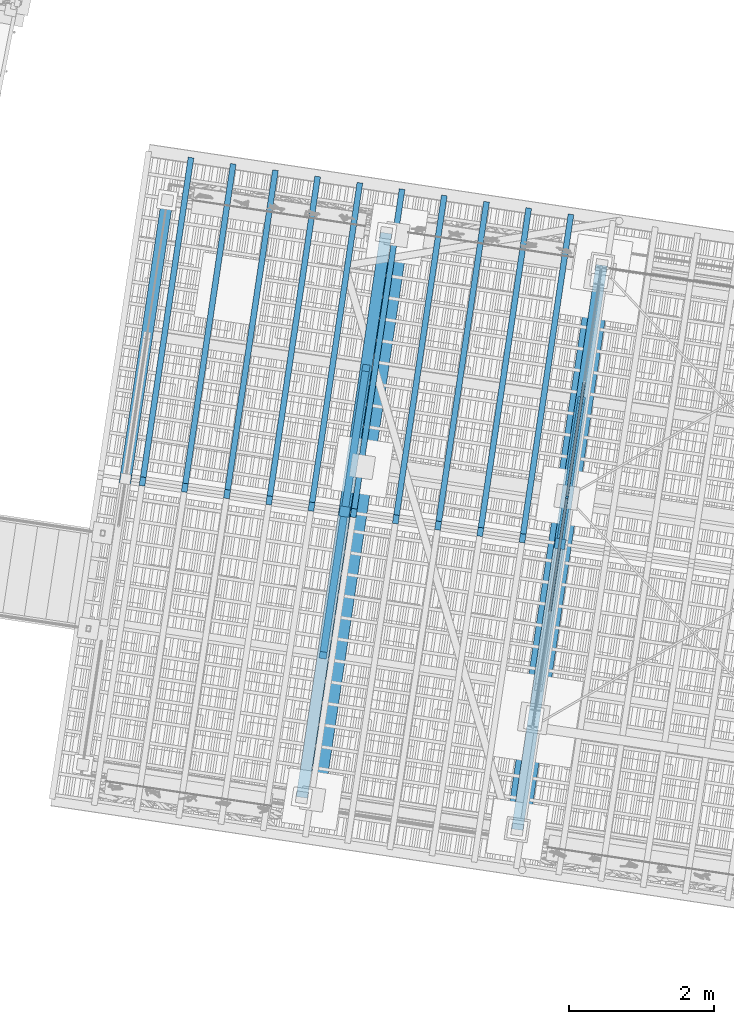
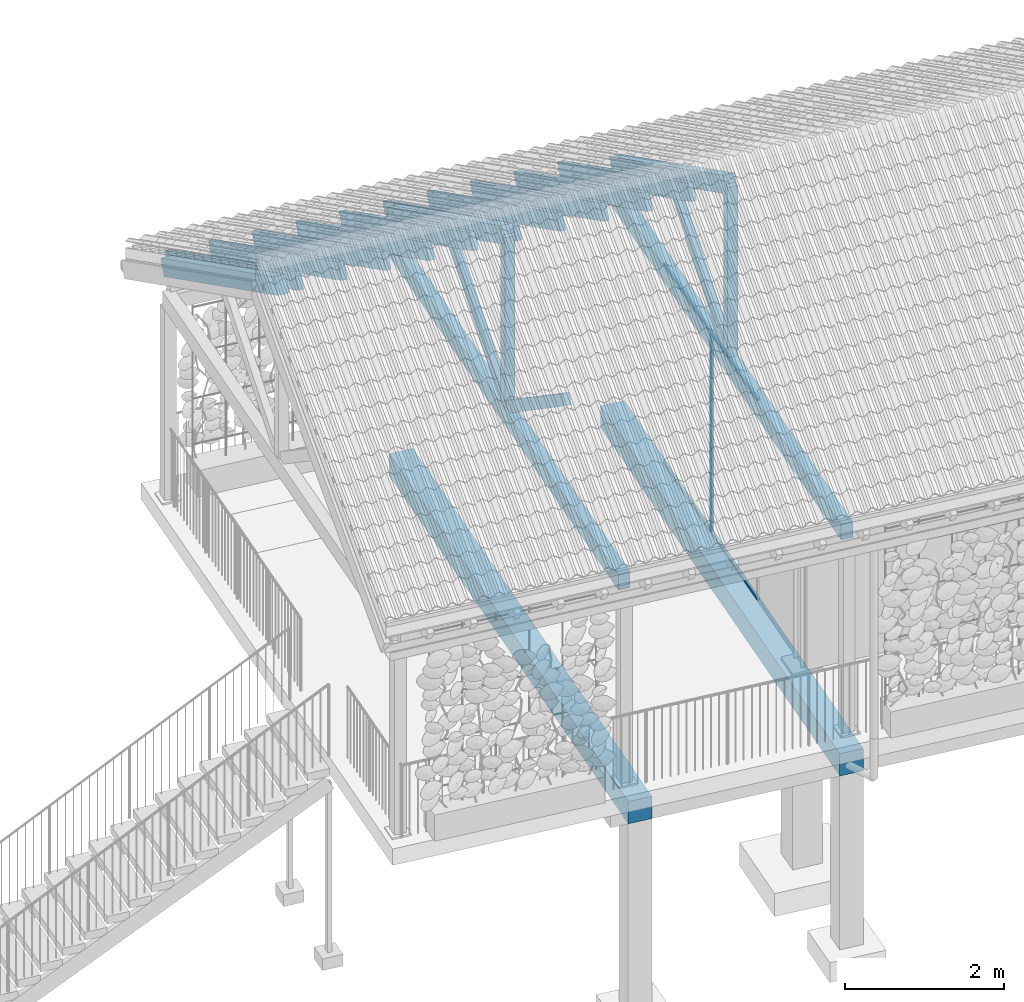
# One storey, part 25 of 131: 24 members, 4 beams, 2 elements without a shape of their own.
"""IFC4 building model written with IfcOpenShell, lengths in metres."""

from ifc_helpers import new_model, si_unit, direction, frame, origin_with_axes, place, context, subcontext, project, spatial, polyline, rectangle, outline, extrude, material, material_profile, profile_set, profile_usage, type_object, element, aggregate, save


model = new_model("IFC4")

# Units and contexts
model_context = context("Model", 3, precision=1e-05, world=origin_with_axes(), true_north=direction((0.0, 1.0)))
body_context = subcontext(model_context, "Body", "Model", "MODEL_VIEW")
ifc_project = project(units=[si_unit("VOLUMEUNIT", "CUBIC_METRE"), si_unit("LENGTHUNIT", "METRE"), si_unit("AREAUNIT", "SQUARE_METRE")], contexts=[model_context])

# Site, building, storey
site_placement = place(None, origin_with_axes())
site = spatial("IfcSite", under=ifc_project, at=site_placement, Name="Lares · Rua das Mercês · artigo 4771")
building_placement = place(site_placement, frame((15.0, 9.7, 15.8), z_axis=(0.0, 0.0, 1.0), x_axis=(0.989015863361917, -0.147809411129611, 0.0)))
building = spatial("IfcBuilding", under=site, at=building_placement, Name="Casa Sobreposta")
storey_placement = place(building_placement, origin_with_axes())
storey = spatial("IfcBuildingStorey", under=building, at=storey_placement, Name="00 · Habitação e estacionamento", Elevation=15.8)

# Members
ifc_material_1 = material(Name="Aço pintado / Stahl lackiert", Category="steel")
ifc_material_profile_1 = material_profile(ifc_material_1, rectangle(XDim=0.035, YDim=0.035))
ifc_profile_set_1 = profile_set([ifc_material_profile_1], Name="R0.035")
ifc_profile_usage_1 = profile_usage(ifc_profile_set_1)
member_type_1 = type_object("IfcMemberType", Name="R0.035 / steel", PredefinedType="NOTDEFINED", material=ifc_profile_set_1)
member_1_placement = place(storey_placement, frame((0.0, 3.2, 0.0), z_axis=(0.0, 0.0, 1.0), x_axis=(1.0, 0.0, 0.0)))
element("IfcMember", 1, at=member_1_placement, inside=storey, type_object=member_type_1, material=ifc_profile_usage_1, context=body_context, shape_type="SweptSolid", body=[
    extrude(rectangle(XDim=0.035, YDim=0.035), origin_with_axes(), (0.0, 0.0, 1.0), 3.05),
])
ifc_profile_usage_2 = profile_usage(ifc_profile_set_1)
member_2_placement = place(storey_placement, frame((0.0, 1.6, 0.0), z_axis=(0.0, 1.0, 0.0), x_axis=(1.0, 0.0, 0.0)))
element("IfcMember", 2, at=member_2_placement, inside=storey, type_object=member_type_1, material=ifc_profile_usage_2, Name="Fachada poente integralmente envidraçada · módulo 2 · travessa", context=body_context, shape_type="SweptSolid", body=[
    extrude(rectangle(XDim=0.035, YDim=0.035), origin_with_axes(), (0.0, 0.0, 1.0), 1.6),
])
ifc_profile_usage_3 = profile_usage(ifc_profile_set_1)
member_3_placement = place(storey_placement, frame((0.0, 1.6, 3.05), z_axis=(0.0, 1.0, 0.0), x_axis=(1.0, 0.0, 0.0)))
element("IfcMember", 3, at=member_3_placement, inside=storey, type_object=member_type_1, material=ifc_profile_usage_3, Name="Fachada poente integralmente envidraçada · módulo 2 · travessa", context=body_context, shape_type="SweptSolid", body=[
    extrude(rectangle(XDim=0.035, YDim=0.035), origin_with_axes(), (0.0, 0.0, 1.0), 1.6),
])
ifc_profile_usage_4 = profile_usage(ifc_profile_set_1)
member_4_placement = place(storey_placement, frame((0.0, 3.2, 0.0), z_axis=(0.0, 0.0, 1.0), x_axis=(1.0, 0.0, 0.0)))
element("IfcMember", 4, at=member_4_placement, inside=storey, type_object=member_type_1, material=ifc_profile_usage_4, context=body_context, shape_type="SweptSolid", body=[
    extrude(rectangle(XDim=0.035, YDim=0.035), origin_with_axes(), (0.0, 0.0, 1.0), 3.05),
])
ifc_profile_usage_5 = profile_usage(ifc_profile_set_1)
member_5_placement = place(storey_placement, frame((0.0, 3.2, 0.0), z_axis=(0.0, 1.0, 0.0), x_axis=(1.0, 0.0, 0.0)))
element("IfcMember", 5, at=member_5_placement, inside=storey, type_object=member_type_1, material=ifc_profile_usage_5, Name="Fachada poente integralmente envidraçada · módulo 3 · travessa", context=body_context, shape_type="SweptSolid", body=[
    extrude(rectangle(XDim=0.035, YDim=0.035), origin_with_axes(), (0.0, 0.0, 1.0), 1.6),
])
ifc_profile_usage_6 = profile_usage(ifc_profile_set_1)
member_6_placement = place(storey_placement, frame((0.0, 3.2, 3.05), z_axis=(0.0, 1.0, 0.0), x_axis=(1.0, 0.0, 0.0)))
element("IfcMember", 6, at=member_6_placement, inside=storey, type_object=member_type_1, material=ifc_profile_usage_6, Name="Fachada poente integralmente envidraçada · módulo 3 · travessa", context=body_context, shape_type="SweptSolid", body=[
    extrude(rectangle(XDim=0.035, YDim=0.035), origin_with_axes(), (0.0, 0.0, 1.0), 1.6),
])

# Roof, beams, members
ifc_material_2 = material(Name="Madeira / Bauholz", Category="wood")
roof_placement = place(storey_placement, origin_with_axes())
roof = element("IfcRoof", 7, at=roof_placement, inside=storey, material=ifc_material_2, Name="Cobertura de telha · duas águas 30 graus", PredefinedType="GABLE_ROOF")
ifc_material_profile_2 = material_profile(ifc_material_2, rectangle(XDim=0.16, YDim=0.24))
ifc_profile_set_2 = profile_set([ifc_material_profile_2], Name="TIMBER0.160x0.240")
ifc_profile_usage_7 = profile_usage(ifc_profile_set_2)
beam_type = type_object("IfcBeamType", Name="TIMBER0.160x0.240 / timber", PredefinedType="NOTDEFINED", material=ifc_profile_set_2)
beam_1_placement = place(roof_placement, frame((-3.0, -1.43, 3.02), z_axis=(0.0, 1.0, 0.0), x_axis=(1.0, 0.0, 0.0)))
beam_1 = element("IfcBeam", 8, at=beam_1_placement, type_object=beam_type, material=ifc_profile_usage_7, Name="Tesoura · tirante inferior", context=body_context, shape_type="SweptSolid", body=[
    extrude(rectangle(XDim=0.16, YDim=0.24), origin_with_axes(), (0.0, 0.0, 1.0), 7.86),
])
ifc_profile_usage_8 = profile_usage(ifc_profile_set_2)
beam_2_placement = place(roof_placement, frame((0.0, -1.43, 3.02), z_axis=(0.0, 1.0, 0.0), x_axis=(1.0, 0.0, 0.0)))
beam_2 = element("IfcBeam", 9, at=beam_2_placement, type_object=beam_type, material=ifc_profile_usage_8, Name="Tesoura · tirante inferior", context=body_context, shape_type="SweptSolid", body=[
    extrude(rectangle(XDim=0.16, YDim=0.24), origin_with_axes(), (0.0, 0.0, 1.0), 7.86),
])
ifc_material_profile_3 = material_profile(ifc_material_2, rectangle(XDim=0.16, YDim=0.24))
ifc_profile_set_3 = profile_set([ifc_material_profile_3], Name="TIMBER0.160x0.240")
ifc_profile_usage_9 = profile_usage(ifc_profile_set_3)
member_type_2 = type_object("IfcMemberType", Name="TIMBER0.160x0.240 / timber", PredefinedType="NOTDEFINED", material=ifc_profile_set_3)
member_7_placement = place(roof_placement, frame((-6.05, 2.55, 5.74420869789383), z_axis=(0.0, 0.866025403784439, -0.5), x_axis=(1.0, 0.0, 0.0)))
member_7 = element("IfcMember", 10, at=member_7_placement, type_object=member_type_2, material=ifc_profile_usage_9, Name="Tesoura · perna", context=body_context, shape_type="SweptSolid", body=[
    extrude(rectangle(XDim=0.16, YDim=0.24), origin_with_axes(), (0.0, 0.0, 1.0), 4.4802380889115),
])
ifc_profile_usage_10 = profile_usage(ifc_profile_set_3)
member_8_placement = place(roof_placement, frame((-3.0, 2.55, 5.74420869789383), z_axis=(0.0, 0.866025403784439, -0.5), x_axis=(1.0, 0.0, 0.0)))
member_8 = element("IfcMember", 11, at=member_8_placement, type_object=member_type_2, material=ifc_profile_usage_10, Name="Tesoura · perna", context=body_context, shape_type="SweptSolid", body=[
    extrude(rectangle(XDim=0.16, YDim=0.24), origin_with_axes(), (0.0, 0.0, 1.0), 4.4802380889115),
])
ifc_profile_usage_11 = profile_usage(ifc_profile_set_3)
member_9_placement = place(roof_placement, frame((0.0, 2.55, 5.74420869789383), z_axis=(0.0, 0.866025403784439, -0.5), x_axis=(1.0, 0.0, 0.0)))
member_9 = element("IfcMember", 12, at=member_9_placement, type_object=member_type_2, material=ifc_profile_usage_11, Name="Tesoura · perna", context=body_context, shape_type="SweptSolid", body=[
    extrude(rectangle(XDim=0.16, YDim=0.24), origin_with_axes(), (0.0, 0.0, 1.0), 4.4802380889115),
])
ifc_material_profile_4 = material_profile(ifc_material_2, rectangle(XDim=0.14, YDim=0.14))
ifc_profile_set_4 = profile_set([ifc_material_profile_4], Name="TIMBER0.140x0.140")
ifc_profile_usage_12 = profile_usage(ifc_profile_set_4)
member_type_3 = type_object("IfcMemberType", Name="TIMBER0.140x0.140 / timber", PredefinedType="NOTDEFINED", material=ifc_profile_set_4)
member_10_placement = place(roof_placement, frame((-3.0, 2.55, 3.02), z_axis=(0.0, 0.0, 1.0), x_axis=(1.0, 0.0, 0.0)))
member_10 = element("IfcMember", 13, at=member_10_placement, type_object=member_type_3, material=ifc_profile_usage_12, Name="Tesoura · pendural", context=body_context, shape_type="SweptSolid", body=[
    extrude(rectangle(XDim=0.14, YDim=0.14), origin_with_axes(), (0.0, 0.0, 1.0), 2.72420869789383),
])
ifc_profile_usage_13 = profile_usage(ifc_profile_set_4)
member_11_placement = place(roof_placement, frame((0.0, 2.55, 3.02), z_axis=(0.0, 0.0, 1.0), x_axis=(1.0, 0.0, 0.0)))
member_11 = element("IfcMember", 14, at=member_11_placement, type_object=member_type_3, material=ifc_profile_usage_13, Name="Tesoura · pendural", context=body_context, shape_type="SweptSolid", body=[
    extrude(rectangle(XDim=0.14, YDim=0.14), origin_with_axes(), (0.0, 0.0, 1.0), 2.72420869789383),
])
ifc_material_profile_5 = material_profile(ifc_material_2, rectangle(XDim=0.1, YDim=0.16))
ifc_profile_set_5 = profile_set([ifc_material_profile_5], Name="TIMBER0.100x0.160")
ifc_profile_usage_14 = profile_usage(ifc_profile_set_5)
member_type_4 = type_object("IfcMemberType", Name="TIMBER0.100x0.160 / timber", PredefinedType="NOTDEFINED", material=ifc_profile_set_5)
member_12_placement = place(roof_placement, frame((-3.0, 2.55, 3.1), z_axis=(0.0, -0.816439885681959, 0.577430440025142), x_axis=(-1.0, 0.0, 0.0)))
member_12 = element("IfcMember", 15, at=member_12_placement, type_object=member_type_4, material=ifc_profile_usage_14, Name="Tesoura · escora", context=body_context, shape_type="SweptSolid", body=[
    extrude(rectangle(XDim=0.1, YDim=0.16), origin_with_axes(), (0.0, 0.0, 1.0), 2.44965984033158),
])
ifc_profile_usage_15 = profile_usage(ifc_profile_set_5)
member_13_placement = place(roof_placement, frame((-3.0, 2.55, 3.1), z_axis=(0.0, 0.816439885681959, 0.577430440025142), x_axis=(1.0, 0.0, 0.0)))
member_13 = element("IfcMember", 16, at=member_13_placement, type_object=member_type_4, material=ifc_profile_usage_15, Name="Tesoura · escora", context=body_context, shape_type="SweptSolid", body=[
    extrude(rectangle(XDim=0.1, YDim=0.16), origin_with_axes(), (0.0, 0.0, 1.0), 2.44965984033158),
])
ifc_profile_usage_16 = profile_usage(ifc_profile_set_5)
member_14_placement = place(roof_placement, frame((0.0, 2.55, 3.1), z_axis=(0.0, 0.816439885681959, 0.577430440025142), x_axis=(1.0, 0.0, 0.0)))
member_14 = element("IfcMember", 17, at=member_14_placement, type_object=member_type_4, material=ifc_profile_usage_16, Name="Tesoura · escora", context=body_context, shape_type="SweptSolid", body=[
    extrude(rectangle(XDim=0.1, YDim=0.16), origin_with_axes(), (0.0, 0.0, 1.0), 2.44965984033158),
])
ifc_material_profile_6 = material_profile(ifc_material_2, rectangle(XDim=0.08, YDim=0.24))
ifc_profile_set_6 = profile_set([ifc_material_profile_6], Name="TIMBER0.080x0.240")
ifc_profile_usage_17 = profile_usage(ifc_profile_set_6)
member_type_5 = type_object("IfcMemberType", Name="TIMBER0.080x0.240 / timber", PredefinedType="NOTDEFINED", material=ifc_profile_set_6)
member_15_placement = place(roof_placement, frame((-5.81212121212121, 2.55, 5.75020869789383), z_axis=(0.0, 0.866025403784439, -0.5), x_axis=(1.0, 0.0, 0.0)))
member_15 = element("IfcMember", 18, at=member_15_placement, type_object=member_type_5, material=ifc_profile_usage_17, Name="Cobertura · caibro", context=body_context, shape_type="SweptSolid", body=[
    extrude(rectangle(XDim=0.08, YDim=0.24), origin_with_axes(), (0.0, 0.0, 1.0), 5.13841739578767),
])
ifc_profile_usage_18 = profile_usage(ifc_profile_set_6)
member_16_placement = place(roof_placement, frame((-5.22424242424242, 2.55, 5.75020869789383), z_axis=(0.0, 0.866025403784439, -0.5), x_axis=(1.0, 0.0, 0.0)))
member_16 = element("IfcMember", 19, at=member_16_placement, type_object=member_type_5, material=ifc_profile_usage_18, Name="Cobertura · caibro", context=body_context, shape_type="SweptSolid", body=[
    extrude(rectangle(XDim=0.08, YDim=0.24), origin_with_axes(), (0.0, 0.0, 1.0), 5.13841739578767),
])
ifc_profile_usage_19 = profile_usage(ifc_profile_set_6)
member_17_placement = place(roof_placement, frame((-4.63636363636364, 2.55, 5.75020869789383), z_axis=(0.0, 0.866025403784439, -0.5), x_axis=(1.0, 0.0, 0.0)))
member_17 = element("IfcMember", 20, at=member_17_placement, type_object=member_type_5, material=ifc_profile_usage_19, Name="Cobertura · caibro", context=body_context, shape_type="SweptSolid", body=[
    extrude(rectangle(XDim=0.08, YDim=0.24), origin_with_axes(), (0.0, 0.0, 1.0), 5.13841739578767),
])
ifc_profile_usage_20 = profile_usage(ifc_profile_set_6)
member_18_placement = place(roof_placement, frame((-4.04848484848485, 2.55, 5.75020869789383), z_axis=(0.0, 0.866025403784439, -0.5), x_axis=(1.0, 0.0, 0.0)))
member_18 = element("IfcMember", 21, at=member_18_placement, type_object=member_type_5, material=ifc_profile_usage_20, Name="Cobertura · caibro", context=body_context, shape_type="SweptSolid", body=[
    extrude(rectangle(XDim=0.08, YDim=0.24), origin_with_axes(), (0.0, 0.0, 1.0), 5.13841739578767),
])
ifc_profile_usage_21 = profile_usage(ifc_profile_set_6)
member_19_placement = place(roof_placement, frame((-3.46060606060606, 2.55, 5.75020869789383), z_axis=(0.0, 0.866025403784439, -0.5), x_axis=(1.0, 0.0, 0.0)))
member_19 = element("IfcMember", 22, at=member_19_placement, type_object=member_type_5, material=ifc_profile_usage_21, Name="Cobertura · caibro", context=body_context, shape_type="SweptSolid", body=[
    extrude(rectangle(XDim=0.08, YDim=0.24), origin_with_axes(), (0.0, 0.0, 1.0), 5.13841739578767),
])
ifc_profile_usage_22 = profile_usage(ifc_profile_set_6)
member_20_placement = place(roof_placement, frame((-2.87272727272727, 2.55, 5.75020869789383), z_axis=(0.0, 0.866025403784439, -0.5), x_axis=(1.0, 0.0, 0.0)))
member_20 = element("IfcMember", 23, at=member_20_placement, type_object=member_type_5, material=ifc_profile_usage_22, Name="Cobertura · caibro", context=body_context, shape_type="SweptSolid", body=[
    extrude(rectangle(XDim=0.08, YDim=0.24), origin_with_axes(), (0.0, 0.0, 1.0), 5.13841739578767),
])
ifc_profile_usage_23 = profile_usage(ifc_profile_set_6)
member_21_placement = place(roof_placement, frame((-2.28484848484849, 2.55, 5.75020869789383), z_axis=(0.0, 0.866025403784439, -0.5), x_axis=(1.0, 0.0, 0.0)))
member_21 = element("IfcMember", 24, at=member_21_placement, type_object=member_type_5, material=ifc_profile_usage_23, Name="Cobertura · caibro", context=body_context, shape_type="SweptSolid", body=[
    extrude(rectangle(XDim=0.08, YDim=0.24), origin_with_axes(), (0.0, 0.0, 1.0), 5.13841739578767),
])
ifc_profile_usage_24 = profile_usage(ifc_profile_set_6)
member_22_placement = place(roof_placement, frame((-1.6969696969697, 2.55, 5.75020869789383), z_axis=(0.0, 0.866025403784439, -0.5), x_axis=(1.0, 0.0, 0.0)))
member_22 = element("IfcMember", 25, at=member_22_placement, type_object=member_type_5, material=ifc_profile_usage_24, Name="Cobertura · caibro", context=body_context, shape_type="SweptSolid", body=[
    extrude(rectangle(XDim=0.08, YDim=0.24), origin_with_axes(), (0.0, 0.0, 1.0), 5.13841739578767),
])
ifc_profile_usage_25 = profile_usage(ifc_profile_set_6)
member_23_placement = place(roof_placement, frame((-1.10909090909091, 2.55, 5.75020869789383), z_axis=(0.0, 0.866025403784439, -0.5), x_axis=(1.0, 0.0, 0.0)))
member_23 = element("IfcMember", 26, at=member_23_placement, type_object=member_type_5, material=ifc_profile_usage_25, Name="Cobertura · caibro", context=body_context, shape_type="SweptSolid", body=[
    extrude(rectangle(XDim=0.08, YDim=0.24), origin_with_axes(), (0.0, 0.0, 1.0), 5.13841739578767),
])
ifc_profile_usage_26 = profile_usage(ifc_profile_set_6)
member_24_placement = place(roof_placement, frame((-0.521212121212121, 2.55, 5.75020869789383), z_axis=(0.0, 0.866025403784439, -0.5), x_axis=(1.0, 0.0, 0.0)))
member_24 = element("IfcMember", 27, at=member_24_placement, type_object=member_type_5, material=ifc_profile_usage_26, Name="Cobertura · caibro", context=body_context, shape_type="SweptSolid", body=[
    extrude(rectangle(XDim=0.08, YDim=0.24), origin_with_axes(), (0.0, 0.0, 1.0), 5.13841739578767),
])
aggregate(roof, [member_7, beam_1, member_8, member_10, member_12, member_13, beam_2, member_9, member_11, member_14, member_15, member_16, member_17, member_18, member_19, member_20, member_21, member_22, member_23, member_24])

# Assembly, beams
assembly_placement = place(storey_placement, origin_with_axes())
assembly = element("IfcElementAssembly", 28, at=assembly_placement, inside=storey, Name="Pódio · terraço, casa térrea e cisterna", ObjectType="CISTERN_PODIUM", PredefinedType="USERDEFINED")
ifc_material_3 = material(Name="Betão armado / Stahlbeton", Category="concrete")
beam_3_placement = place(assembly_placement, frame((0.0, 0.0, -0.59), z_axis=(0.0, 0.0, 1.0), x_axis=(1.0, 0.0, 0.0)))
beam_3 = element("IfcBeam", 29, at=beam_3_placement, material=ifc_material_3, Name="Pódio suspenso · viga transversal", context=body_context, shape_type="SweptSolid", body=[
    extrude(outline(polyline([(-2.69, -1.59), (-2.69, 6.59), (-3.01, 6.59), (-3.01, -1.59), (-2.69, -1.59)])), origin_with_axes(), (0.0, 0.0, 1.0), 0.34),
])
beam_4_placement = place(assembly_placement, frame((0.0, 0.0, -0.59), z_axis=(0.0, 0.0, 1.0), x_axis=(1.0, 0.0, 0.0)))
beam_4 = element("IfcBeam", 30, at=beam_4_placement, material=ifc_material_3, Name="Pódio suspenso · viga transversal", context=body_context, shape_type="SweptSolid", body=[
    extrude(outline(polyline([(0.16, -1.59), (0.16, 6.59), (-0.16, 6.59), (-0.16, -1.59), (0.16, -1.59)])), origin_with_axes(), (0.0, 0.0, 1.0), 0.34),
])
aggregate(assembly, [beam_3, beam_4])

save(model, "model.ifc")
